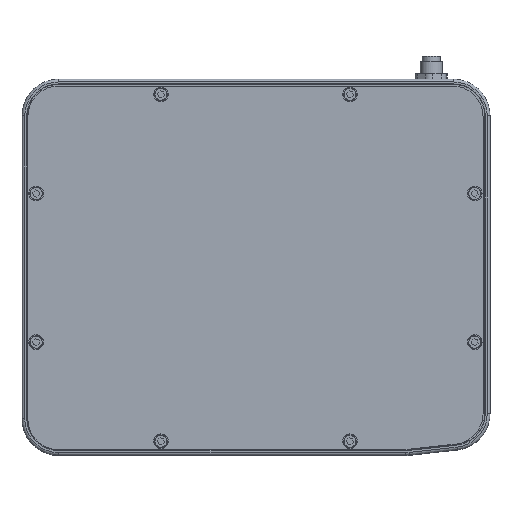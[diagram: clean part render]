
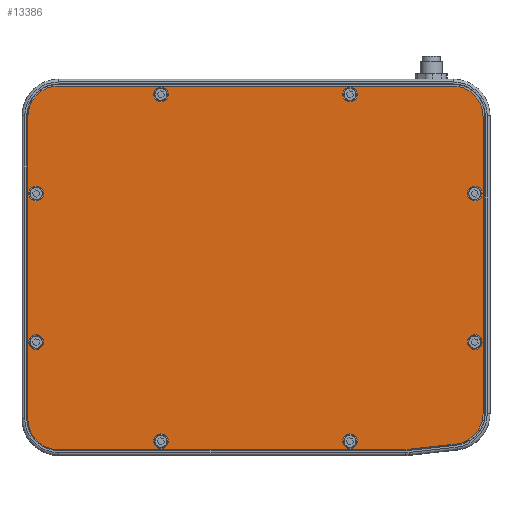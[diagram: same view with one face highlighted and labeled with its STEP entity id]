
A CAD part, top view. The second image highlights one B-rep face of the part: STEP entity #13386.
In plain terms, the highlighted planar face has unit normal (0, 0, 1).
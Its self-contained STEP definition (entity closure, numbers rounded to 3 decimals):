
#9087=CARTESIAN_POINT('',(83.614,-99.282,5.0));
#9088=VERTEX_POINT('',#9087);
#9095=CARTESIAN_POINT('',(81.791,-99.383,5.0));
#9096=VERTEX_POINT('',#9095);
#9097=CARTESIAN_POINT('',(81.791,-82.883,5.0));
#9098=DIRECTION('',(0.0,0.0,-1.0));
#9099=DIRECTION('',(0.0,1.0,0.0));
#9100=AXIS2_PLACEMENT_3D('',#9097,#9098,#9099);
#9101=CIRCLE('',#9100,16.5);
#9102=EDGE_CURVE('',#9088,#9096,#9101,.T.);
#9119=CARTESIAN_POINT('',(109.721,-96.381,5.0));
#9120=VERTEX_POINT('',#9119);
#9127=CARTESIAN_POINT('',(109.721,-96.381,5.0));
#9128=DIRECTION('',(-0.994,-0.11,0.0));
#9129=VECTOR('',#9128,26.268);
#9130=LINE('',#9127,#9129);
#9131=EDGE_CURVE('',#9120,#9088,#9130,.T.);
#9143=CARTESIAN_POINT('',(124.399,-79.982,5.0));
#9144=VERTEX_POINT('',#9143);
#9151=CARTESIAN_POINT('',(107.899,-79.982,5.0));
#9152=DIRECTION('',(0.0,0.0,-1.));
#9153=DIRECTION('',(-0.11,0.994,0.0));
#9154=AXIS2_PLACEMENT_3D('',#9151,#9152,#9153);
#9155=CIRCLE('',#9154,16.5);
#9156=EDGE_CURVE('',#9144,#9120,#9155,.T.);
#9168=CARTESIAN_POINT('',(124.399,82.117,5.0));
#9169=VERTEX_POINT('',#9168);
#9176=CARTESIAN_POINT('',(124.399,82.117,5.0));
#9177=DIRECTION('',(0.0,-1.0,0.0));
#9178=VECTOR('',#9177,162.099);
#9179=LINE('',#9176,#9178);
#9180=EDGE_CURVE('',#9169,#9144,#9179,.T.);
#9192=CARTESIAN_POINT('',(107.899,98.617,5.0));
#9193=VERTEX_POINT('',#9192);
#9200=CARTESIAN_POINT('',(107.899,82.117,5.0));
#9201=DIRECTION('',(0.0,0.0,-1.0));
#9202=DIRECTION('',(-1.0,0.0,0.0));
#9203=AXIS2_PLACEMENT_3D('',#9200,#9201,#9202);
#9204=CIRCLE('',#9203,16.5);
#9205=EDGE_CURVE('',#9193,#9169,#9204,.T.);
#12468=CARTESIAN_POINT('',(-115.101,40.117,5.0));
#12469=VERTEX_POINT('',#12468);
#12470=CARTESIAN_POINT('',(-119.101,40.117,5.0));
#12471=DIRECTION('',(0.0,0.0,-1.0));
#12472=DIRECTION('',(1.0,0.0,0.0));
#12473=AXIS2_PLACEMENT_3D('',#12470,#12471,#12472);
#12474=CIRCLE('',#12473,4.0);
#12475=EDGE_CURVE('',#12469,#12469,#12474,.T.);
#12570=CARTESIAN_POINT('',(-115.101,-40.883,5.0));
#12571=VERTEX_POINT('',#12570);
#12572=CARTESIAN_POINT('',(-119.101,-40.883,5.0));
#12573=DIRECTION('',(0.0,0.0,-1.0));
#12574=DIRECTION('',(1.0,0.0,0.0));
#12575=AXIS2_PLACEMENT_3D('',#12572,#12573,#12574);
#12576=CIRCLE('',#12575,4.0);
#12577=EDGE_CURVE('',#12571,#12571,#12576,.T.);
#12672=CARTESIAN_POINT('',(-47.101,-94.883,5.0));
#12673=VERTEX_POINT('',#12672);
#12674=CARTESIAN_POINT('',(-51.101,-94.883,5.0));
#12675=DIRECTION('',(0.0,0.0,-1.0));
#12676=DIRECTION('',(1.0,0.0,0.0));
#12677=AXIS2_PLACEMENT_3D('',#12674,#12675,#12676);
#12678=CIRCLE('',#12677,4.0);
#12679=EDGE_CURVE('',#12673,#12673,#12678,.T.);
#12774=CARTESIAN_POINT('',(55.899,-94.883,5.0));
#12775=VERTEX_POINT('',#12774);
#12776=CARTESIAN_POINT('',(51.899,-94.883,5.0));
#12777=DIRECTION('',(0.0,0.0,-1.0));
#12778=DIRECTION('',(1.0,0.0,0.0));
#12779=AXIS2_PLACEMENT_3D('',#12776,#12777,#12778);
#12780=CIRCLE('',#12779,4.0);
#12781=EDGE_CURVE('',#12775,#12775,#12780,.T.);
#12876=CARTESIAN_POINT('',(123.899,-40.883,5.0));
#12877=VERTEX_POINT('',#12876);
#12878=CARTESIAN_POINT('',(119.899,-40.883,5.0));
#12879=DIRECTION('',(0.0,0.0,-1.0));
#12880=DIRECTION('',(1.0,0.0,0.0));
#12881=AXIS2_PLACEMENT_3D('',#12878,#12879,#12880);
#12882=CIRCLE('',#12881,4.0);
#12883=EDGE_CURVE('',#12877,#12877,#12882,.T.);
#12978=CARTESIAN_POINT('',(123.899,40.117,5.0));
#12979=VERTEX_POINT('',#12978);
#12980=CARTESIAN_POINT('',(119.899,40.117,5.0));
#12981=DIRECTION('',(0.0,0.0,-1.0));
#12982=DIRECTION('',(1.0,0.0,0.0));
#12983=AXIS2_PLACEMENT_3D('',#12980,#12981,#12982);
#12984=CIRCLE('',#12983,4.0);
#12985=EDGE_CURVE('',#12979,#12979,#12984,.T.);
#13080=CARTESIAN_POINT('',(55.899,94.117,5.0));
#13081=VERTEX_POINT('',#13080);
#13082=CARTESIAN_POINT('',(51.899,94.117,5.0));
#13083=DIRECTION('',(0.0,0.0,-1.0));
#13084=DIRECTION('',(1.0,0.0,0.0));
#13085=AXIS2_PLACEMENT_3D('',#13082,#13083,#13084);
#13086=CIRCLE('',#13085,4.0);
#13087=EDGE_CURVE('',#13081,#13081,#13086,.T.);
#13182=CARTESIAN_POINT('',(-47.101,94.117,5.0));
#13183=VERTEX_POINT('',#13182);
#13184=CARTESIAN_POINT('',(-51.101,94.117,5.0));
#13185=DIRECTION('',(0.0,0.0,-1.0));
#13186=DIRECTION('',(1.0,0.0,0.0));
#13187=AXIS2_PLACEMENT_3D('',#13184,#13185,#13186);
#13188=CIRCLE('',#13187,4.0);
#13189=EDGE_CURVE('',#13183,#13183,#13188,.T.);
#13237=CARTESIAN_POINT('',(-107.101,-99.383,5.0));
#13238=VERTEX_POINT('',#13237);
#13239=CARTESIAN_POINT('',(81.791,-99.383,5.0));
#13240=DIRECTION('',(-1.0,0.0,0.0));
#13241=VECTOR('',#13240,188.892);
#13242=LINE('',#13239,#13241);
#13243=EDGE_CURVE('',#9096,#13238,#13242,.T.);
#13261=CARTESIAN_POINT('',(-123.601,-82.883,5.0));
#13262=VERTEX_POINT('',#13261);
#13263=CARTESIAN_POINT('',(-107.101,-82.883,5.0));
#13264=DIRECTION('',(0.0,0.0,-1.0));
#13265=DIRECTION('',(1.0,0.0,0.0));
#13266=AXIS2_PLACEMENT_3D('',#13263,#13264,#13265);
#13267=CIRCLE('',#13266,16.5);
#13268=EDGE_CURVE('',#13238,#13262,#13267,.T.);
#13286=CARTESIAN_POINT('',(-123.601,82.117,5.0));
#13287=VERTEX_POINT('',#13286);
#13288=CARTESIAN_POINT('',(-123.601,-82.883,5.0));
#13289=DIRECTION('',(0.0,1.0,0.0));
#13290=VECTOR('',#13289,165.0);
#13291=LINE('',#13288,#13290);
#13292=EDGE_CURVE('',#13262,#13287,#13291,.T.);
#13310=CARTESIAN_POINT('',(-107.101,98.617,5.0));
#13311=VERTEX_POINT('',#13310);
#13312=CARTESIAN_POINT('',(-107.101,82.117,5.0));
#13313=DIRECTION('',(0.0,0.0,-1.0));
#13314=DIRECTION('',(0.0,-1.0,0.0));
#13315=AXIS2_PLACEMENT_3D('',#13312,#13313,#13314);
#13316=CIRCLE('',#13315,16.5);
#13317=EDGE_CURVE('',#13287,#13311,#13316,.T.);
#13335=CARTESIAN_POINT('',(-107.101,98.617,5.0));
#13336=DIRECTION('',(1.0,0.0,0.0));
#13337=VECTOR('',#13336,215.0);
#13338=LINE('',#13335,#13337);
#13339=EDGE_CURVE('',#13311,#9193,#13338,.T.);
#13345=CARTESIAN_POINT('',(0.,-0.001,5.0));
#13346=DIRECTION('',(0.0,0.0,1.0));
#13347=DIRECTION('',(1.0,0.0,0.0));
#13348=AXIS2_PLACEMENT_3D('',#13345,#13346,#13347);
#13349=PLANE('',#13348);
#13350=ORIENTED_EDGE('',*,*,#9205,.F.);
#13351=ORIENTED_EDGE('',*,*,#13339,.F.);
#13352=ORIENTED_EDGE('',*,*,#13317,.F.);
#13353=ORIENTED_EDGE('',*,*,#13292,.F.);
#13354=ORIENTED_EDGE('',*,*,#13268,.F.);
#13355=ORIENTED_EDGE('',*,*,#13243,.F.);
#13356=ORIENTED_EDGE('',*,*,#9102,.F.);
#13357=ORIENTED_EDGE('',*,*,#9131,.F.);
#13358=ORIENTED_EDGE('',*,*,#9156,.F.);
#13359=ORIENTED_EDGE('',*,*,#9180,.F.);
#13360=EDGE_LOOP('',(#13350,#13351,#13352,#13353,#13354,#13355,#13356,#13357,#13358,#13359));
#13361=FACE_OUTER_BOUND('',#13360,.T.);
#13362=ORIENTED_EDGE('',*,*,#12475,.T.);
#13363=EDGE_LOOP('',(#13362));
#13364=FACE_BOUND('',#13363,.T.);
#13365=ORIENTED_EDGE('',*,*,#12577,.T.);
#13366=EDGE_LOOP('',(#13365));
#13367=FACE_BOUND('',#13366,.T.);
#13368=ORIENTED_EDGE('',*,*,#12679,.T.);
#13369=EDGE_LOOP('',(#13368));
#13370=FACE_BOUND('',#13369,.T.);
#13371=ORIENTED_EDGE('',*,*,#12781,.T.);
#13372=EDGE_LOOP('',(#13371));
#13373=FACE_BOUND('',#13372,.T.);
#13374=ORIENTED_EDGE('',*,*,#12883,.T.);
#13375=EDGE_LOOP('',(#13374));
#13376=FACE_BOUND('',#13375,.T.);
#13377=ORIENTED_EDGE('',*,*,#12985,.T.);
#13378=EDGE_LOOP('',(#13377));
#13379=FACE_BOUND('',#13378,.T.);
#13380=ORIENTED_EDGE('',*,*,#13087,.T.);
#13381=EDGE_LOOP('',(#13380));
#13382=FACE_BOUND('',#13381,.T.);
#13383=ORIENTED_EDGE('',*,*,#13189,.T.);
#13384=EDGE_LOOP('',(#13383));
#13385=FACE_BOUND('',#13384,.T.);
#13386=ADVANCED_FACE('',(#13361,#13364,#13367,#13370,#13373,#13376,#13379,#13382,#13385),#13349,.T.);
